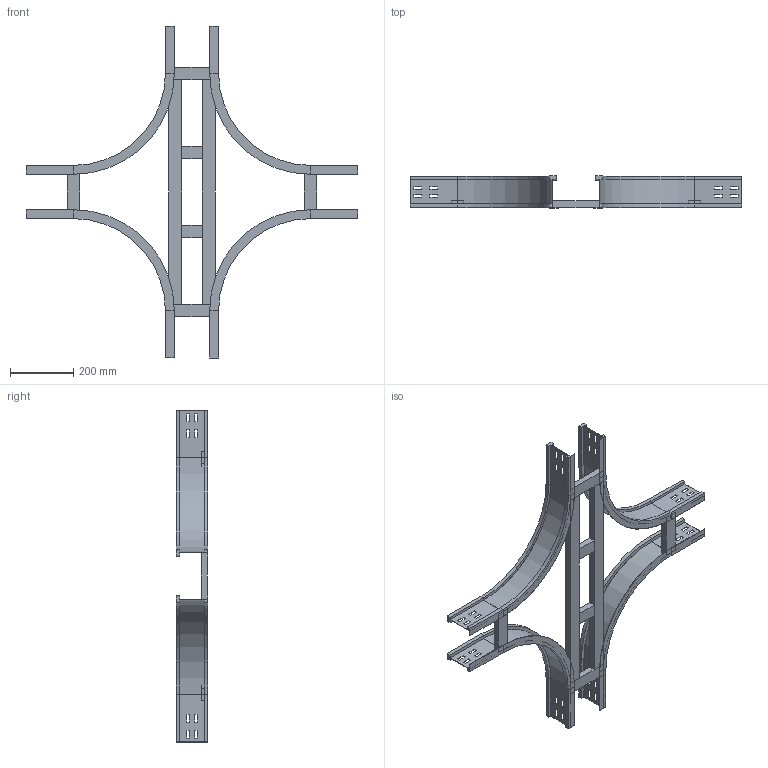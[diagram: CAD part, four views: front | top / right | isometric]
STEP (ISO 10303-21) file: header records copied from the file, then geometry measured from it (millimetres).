
FILE_DESCRIPTION (( 'STEP AP214' ), '1' );
FILE_NAME ('17S3D150.step', '2025-02-21T16:15:46', ( '' ), ( '' ), 'SwSTEP 2.0', 'SolidWorks 2023', '' );
FILE_SCHEMA (( 'AUTOMOTIVE_DESIGN' ));
Length unit declared in the file: millimetre
Products named in the file (5): TRAVERSINO_INTERMEDIO_X_R300+150; 17S3D150; TRAVERSINO_150; LONGH.INTERNO 90°_H100_R300; TRAVERSINO_LONG._R300+150
Assembly tree (12 placements, depth 2):
  17S3D150
    LONGH.INTERNO 90°_H100_R300  x4
    TRAVERSINO_150  x4
    TRAVERSINO_INTERMEDIO_X_R300+150  x2
    TRAVERSINO_LONG._R300+150  x2
Bounding box: 1050 x 100 x 1050 mm (x, y, z)
Volume: 3360164.2 mm3; surface area: 1184032.2 mm2
Topology: 12 solids, 12 shells, 328 faces, 816 edges, 512 vertices
Faces by surface type: plane 304, cylinder 24
Entity records: 2770 total; most frequent: CARTESIAN_POINT 455, DIRECTION 434, ORIENTED_EDGE 432, EDGE_CURVE 216, LINE 204, VECTOR 204, VERTEX_POINT 136, AXIS2_PLACEMENT_3D 115
